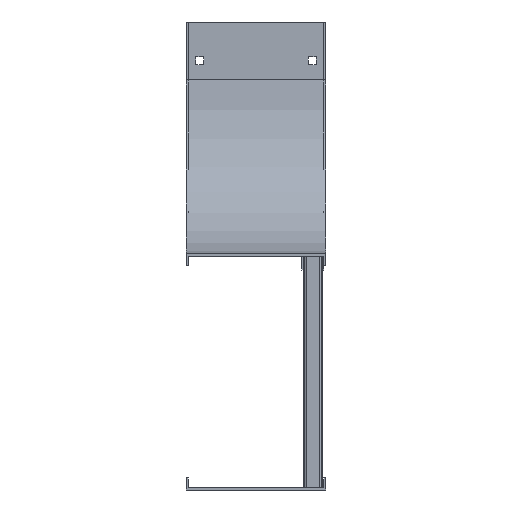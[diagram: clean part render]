
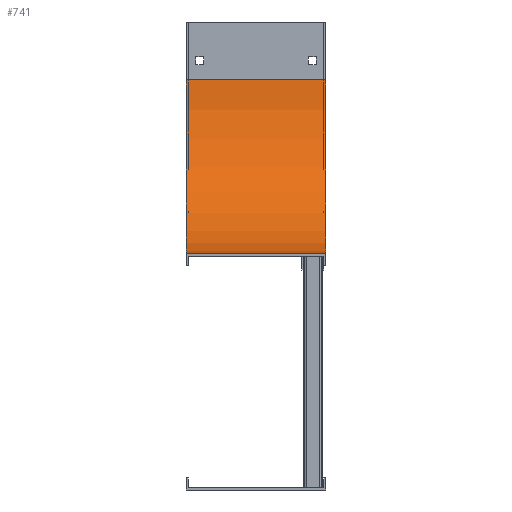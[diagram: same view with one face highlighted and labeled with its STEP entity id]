
A CAD part, left-side view. The second image highlights one B-rep face of the part: STEP entity #741.
In plain terms, the highlighted cylindrical face has radius 228.6 mm (diameter 457.2 mm), a partial arc.
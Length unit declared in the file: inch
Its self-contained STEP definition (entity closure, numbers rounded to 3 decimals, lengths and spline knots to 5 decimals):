
#156=CARTESIAN_POINT('',(0.,-9.,3.));
#157=DIRECTION('',(1.,0.,0.));
#158=DIRECTION('',(0.,1.,0.));
#159=AXIS2_PLACEMENT_3D('',#156,#157,#158);
#165=DIRECTION('',(1.,0.,0.));
#166=VECTOR('',#165,7.24);
#167=CARTESIAN_POINT('',(-7.24,0.,3.));
#168=LINE('',#167,#166);
#169=CARTESIAN_POINT('',(-7.24,-9.,3.));
#170=DIRECTION('',(1.,0.,0.));
#171=DIRECTION('',(0.,1.,0.));
#172=AXIS2_PLACEMENT_3D('',#169,#170,#171);
#174=DIRECTION('',(1.,0.,0.));
#175=VECTOR('',#174,7.24);
#176=CARTESIAN_POINT('',(-7.24,-9.,12.));
#177=LINE('',#176,#175);
#409=CARTESIAN_POINT('',(-7.24,0.,3.));
#410=CARTESIAN_POINT('',(0.,0.,3.));
#411=VERTEX_POINT('',#409);
#412=VERTEX_POINT('',#410);
#425=CARTESIAN_POINT('',(-7.24,-9.,12.));
#426=CARTESIAN_POINT('',(0.,-9.,12.));
#427=VERTEX_POINT('',#425);
#428=VERTEX_POINT('',#426);
#729=CARTESIAN_POINT('',(-1.,-9.,3.));
#730=DIRECTION('',(1.,0.,0.));
#731=DIRECTION('',(0.,-1.,0.));
#732=AXIS2_PLACEMENT_3D('',#729,#730,#731);
#733=CYLINDRICAL_SURFACE('',#732,9.);
#734=ORIENTED_EDGE('',*,*,#553,.F.);
#735=ORIENTED_EDGE('',*,*,#596,.T.);
#737=ORIENTED_EDGE('',*,*,#736,.T.);
#738=ORIENTED_EDGE('',*,*,#715,.F.);
#739=EDGE_LOOP('',(#734,#735,#737,#738));
#740=FACE_OUTER_BOUND('',#739,.F.);
#741=ADVANCED_FACE('',(#740),#733,.F.);
#160=CIRCLE('',#159,9.);
#173=CIRCLE('',#172,9.);
#553=EDGE_CURVE('',#411,#412,#168,.T.);
#596=EDGE_CURVE('',#411,#427,#173,.T.);
#715=EDGE_CURVE('',#412,#428,#160,.T.);
#736=EDGE_CURVE('',#427,#428,#177,.T.);
